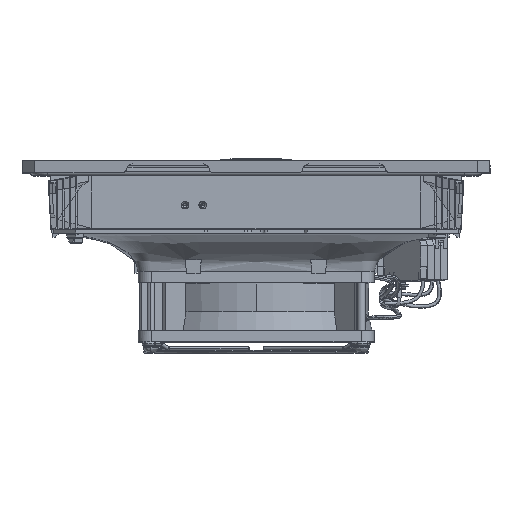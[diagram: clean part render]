
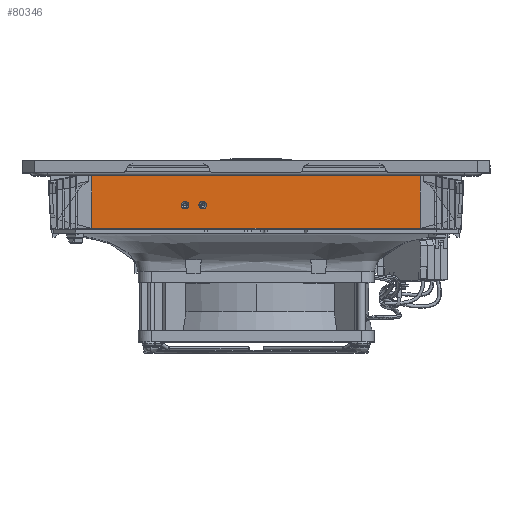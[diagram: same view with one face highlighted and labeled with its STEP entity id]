
A CAD part, top view. The second image highlights one B-rep face of the part: STEP entity #80346.
In plain terms, the highlighted planar face has unit normal (0, -0.009, 1).
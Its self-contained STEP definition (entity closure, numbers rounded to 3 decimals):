
#3979 = CARTESIAN_POINT ( 'NONE',  ( -30.718, -20.5, 110.343 ) ) ;
#4019 =( BOUNDED_CURVE ( )  B_SPLINE_CURVE ( 3, ( #4047, #4046, #4045, #4044 ),
 .UNSPECIFIED., .F., .T. ) 
 B_SPLINE_CURVE_WITH_KNOTS ( ( 4, 4 ),
 ( 1.58, 4.704 ),
 .UNSPECIFIED. ) 
 CURVE ( )  GEOMETRIC_REPRESENTATION_ITEM ( )  RATIONAL_B_SPLINE_CURVE ( ( 1., 0.339, 0.339, 1. ) ) 
 REPRESENTATION_ITEM ( '' )  );
#4021 = CARTESIAN_POINT ( 'NONE',  ( -26.632, -20.5, 110.343 ) ) ;
#4044 = CARTESIAN_POINT ( 'NONE',  ( -26.632, -20.5, 110.343 ) ) ;
#4045 = CARTESIAN_POINT ( 'NONE',  ( -26.667, -24.516, 110.308 ) ) ;
#4046 = CARTESIAN_POINT ( 'NONE',  ( -30.683, -24.516, 110.308 ) ) ;
#4047 = CARTESIAN_POINT ( 'NONE',  ( -30.718, -20.5, 110.343 ) ) ;
#4246 = CARTESIAN_POINT ( 'NONE',  ( -36.162, -20.5, 110.343 ) ) ;
#4257 = CARTESIAN_POINT ( 'NONE',  ( -40.248, -20.5, 110.343 ) ) ;
#4501 = CARTESIAN_POINT ( 'NONE',  ( -36.162, -20.5, 110.343 ) ) ;
#4502 = CARTESIAN_POINT ( 'NONE',  ( -36.197, -24.516, 110.308 ) ) ;
#4503 = CARTESIAN_POINT ( 'NONE',  ( -40.213, -24.516, 110.308 ) ) ;
#4504 = CARTESIAN_POINT ( 'NONE',  ( -40.248, -20.5, 110.343 ) ) ;
#4505 =( BOUNDED_CURVE ( )  B_SPLINE_CURVE ( 3, ( #4504, #4503, #4502, #4501 ),
 .UNSPECIFIED., .F., .T. ) 
 B_SPLINE_CURVE_WITH_KNOTS ( ( 4, 4 ),
 ( 1.58, 4.704 ),
 .UNSPECIFIED. ) 
 CURVE ( )  GEOMETRIC_REPRESENTATION_ITEM ( )  RATIONAL_B_SPLINE_CURVE ( ( 1., 0.339, 0.339, 1. ) ) 
 REPRESENTATION_ITEM ( '' )  );
#12867 = CARTESIAN_POINT ( 'NONE',  ( 88.455, -33., 110.234 ) ) ;
#12868 = CARTESIAN_POINT ( 'NONE',  ( 88.448, -2.5, 110.5 ) ) ;
#12869 = DIRECTION ( 'NONE',  ( 0., -1., -0.009 ) ) ;
#12870 = VECTOR ( 'NONE', #12869, 1000. ) ;
#12871 = CARTESIAN_POINT ( 'NONE',  ( 88.448, -2.505, 110.5 ) ) ;
#12872 = LINE ( 'NONE', #12871, #12870 ) ;
#12984 = CARTESIAN_POINT ( 'NONE',  ( -40.248, -20.5, 110.343 ) ) ;
#12985 = CARTESIAN_POINT ( 'NONE',  ( -40.259, -19.295, 110.353 ) ) ;
#12986 = CARTESIAN_POINT ( 'NONE',  ( -39.41, -18.439, 110.361 ) ) ;
#12987 = CARTESIAN_POINT ( 'NONE',  ( -38.205, -18.439, 110.361 ) ) ;
#12988 = CARTESIAN_POINT ( 'NONE',  ( -37., -18.439, 110.361 ) ) ;
#12989 = CARTESIAN_POINT ( 'NONE',  ( -36.152, -19.295, 110.353 ) ) ;
#12990 = CARTESIAN_POINT ( 'NONE',  ( -36.162, -20.5, 110.343 ) ) ;
#12991 =( BOUNDED_CURVE ( )  B_SPLINE_CURVE ( 3, ( #12990, #12989, #12988, #12987, #12986, #12985, #12984 ),
 .UNSPECIFIED., .F., .T. ) 
 B_SPLINE_CURVE_WITH_KNOTS ( ( 4, 3, 4 ),
 ( 4.704, 6.283, 7.863 ),
 .UNSPECIFIED. ) 
 CURVE ( )  GEOMETRIC_REPRESENTATION_ITEM ( )  RATIONAL_B_SPLINE_CURVE ( ( 1., 0.803, 0.803, 1., 0.803, 0.803, 1. ) ) 
 REPRESENTATION_ITEM ( '' )  );
#16315 = FACE_OUTER_BOUND ( 'NONE', #80450, .T. ) ;
#16316 = CARTESIAN_POINT ( 'NONE',  ( -30.718, -20.5, 110.343 ) ) ;
#16317 = CARTESIAN_POINT ( 'NONE',  ( -30.729, -19.295, 110.353 ) ) ;
#16318 = CARTESIAN_POINT ( 'NONE',  ( -29.88, -18.439, 110.361 ) ) ;
#16319 = CARTESIAN_POINT ( 'NONE',  ( -28.675, -18.439, 110.361 ) ) ;
#16320 = CARTESIAN_POINT ( 'NONE',  ( -27.47, -18.439, 110.361 ) ) ;
#16321 = CARTESIAN_POINT ( 'NONE',  ( -26.622, -19.295, 110.353 ) ) ;
#16322 = CARTESIAN_POINT ( 'NONE',  ( -26.632, -20.5, 110.343 ) ) ;
#16324 =( BOUNDED_CURVE ( )  B_SPLINE_CURVE ( 3, ( #16322, #16321, #16320, #16319, #16318, #16317, #16316 ),
 .UNSPECIFIED., .F., .T. ) 
 B_SPLINE_CURVE_WITH_KNOTS ( ( 4, 3, 4 ),
 ( 4.704, 6.283, 7.863 ),
 .UNSPECIFIED. ) 
 CURVE ( )  GEOMETRIC_REPRESENTATION_ITEM ( )  RATIONAL_B_SPLINE_CURVE ( ( 1., 0.803, 0.803, 1., 0.803, 0.803, 1. ) ) 
 REPRESENTATION_ITEM ( '' )  );
#16325 = FACE_BOUND ( 'NONE', #80353, .T. ) ;
#16326 = FACE_BOUND ( 'NONE', #80350, .T. ) ;
#16350 = DIRECTION ( 'NONE',  ( 0., 1., 0.009 ) ) ;
#16351 = DIRECTION ( 'NONE',  ( 0., -0.009, 1. ) ) ;
#16352 = CARTESIAN_POINT ( 'NONE',  ( 110.5, -2.5, 110.5 ) ) ;
#16353 = AXIS2_PLACEMENT_3D ( 'NONE', #16352, #16351, #16350 ) ;
#16354 = PLANE ( 'NONE',  #16353 ) ;
#16504 = DIRECTION ( 'NONE',  ( -1., 0., 0. ) ) ;
#16505 = VECTOR ( 'NONE', #16504, 1000. ) ;
#16506 = CARTESIAN_POINT ( 'NONE',  ( 110.5, -33., 110.234 ) ) ;
#16507 = LINE ( 'NONE', #16506, #16505 ) ;
#16509 = CARTESIAN_POINT ( 'NONE',  ( -88.455, -33., 110.234 ) ) ;
#16510 = DIRECTION ( 'NONE',  ( 0., -1., -0.009 ) ) ;
#16511 = VECTOR ( 'NONE', #16510, 1000. ) ;
#16512 = CARTESIAN_POINT ( 'NONE',  ( -88.448, -2.455, 110.5 ) ) ;
#16513 = LINE ( 'NONE', #16512, #16511 ) ;
#16514 = CARTESIAN_POINT ( 'NONE',  ( -88.448, -2.5, 110.5 ) ) ;
#16515 = DIRECTION ( 'NONE',  ( -1., 0., 0. ) ) ;
#16516 = VECTOR ( 'NONE', #16515, 1000. ) ;
#16517 = CARTESIAN_POINT ( 'NONE',  ( 110.5, -2.5, 110.5 ) ) ;
#16518 = LINE ( 'NONE', #16517, #16516 ) ;
#73468 = VERTEX_POINT ( 'NONE', #3979 ) ;
#73478 = EDGE_CURVE ( 'NONE', #73468, #73480, #4019, .T. ) ;
#73480 = VERTEX_POINT ( 'NONE', #4021 ) ;
#73630 = VERTEX_POINT ( 'NONE', #4257 ) ;
#73638 = VERTEX_POINT ( 'NONE', #4246 ) ;
#73783 = EDGE_CURVE ( 'NONE', #73630, #73638, #4505, .T. ) ;
#78272 = EDGE_CURVE ( 'NONE', #78273, #78276, #12872, .T. ) ;
#78273 = VERTEX_POINT ( 'NONE', #12868 ) ;
#78276 = VERTEX_POINT ( 'NONE', #12867 ) ;
#78328 = EDGE_CURVE ( 'NONE', #73638, #73630, #12991, .T. ) ;
#80343 = EDGE_CURVE ( 'NONE', #73480, #73468, #16324, .T. ) ;
#80346 = ADVANCED_FACE ( 'NONE', ( #16326, #16325, #16315 ), #16354, .T. ) ;
#80350 = EDGE_LOOP ( 'NONE', ( #80351, #80352 ) ) ;
#80351 = ORIENTED_EDGE ( 'NONE', *, *, #80343, .F. ) ;
#80352 = ORIENTED_EDGE ( 'NONE', *, *, #73478, .F. ) ;
#80353 = EDGE_LOOP ( 'NONE', ( #80354, #80356 ) ) ;
#80354 = ORIENTED_EDGE ( 'NONE', *, *, #78328, .F. ) ;
#80356 = ORIENTED_EDGE ( 'NONE', *, *, #73783, .F. ) ;
#80450 = EDGE_LOOP ( 'NONE', ( #80452, #80453, #80457, #80461 ) ) ;
#80452 = ORIENTED_EDGE ( 'NONE', *, *, #78272, .F. ) ;
#80453 = ORIENTED_EDGE ( 'NONE', *, *, #80454, .T. ) ;
#80454 = EDGE_CURVE ( 'NONE', #78273, #80455, #16518, .T. ) ;
#80455 = VERTEX_POINT ( 'NONE', #16514 ) ;
#80457 = ORIENTED_EDGE ( 'NONE', *, *, #80458, .T. ) ;
#80458 = EDGE_CURVE ( 'NONE', #80455, #80459, #16513, .T. ) ;
#80459 = VERTEX_POINT ( 'NONE', #16509 ) ;
#80461 = ORIENTED_EDGE ( 'NONE', *, *, #80463, .F. ) ;
#80463 = EDGE_CURVE ( 'NONE', #78276, #80459, #16507, .T. ) ;
